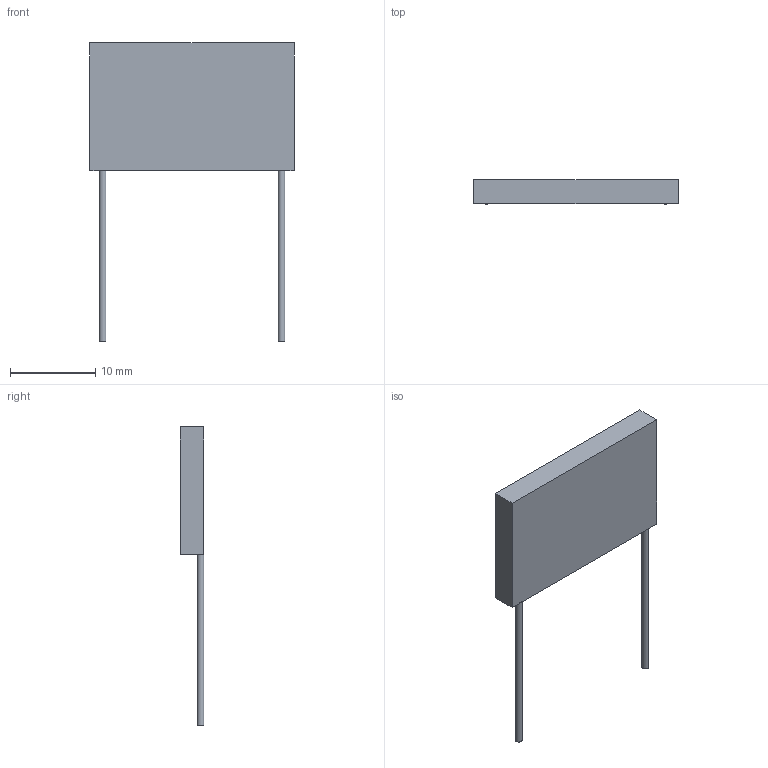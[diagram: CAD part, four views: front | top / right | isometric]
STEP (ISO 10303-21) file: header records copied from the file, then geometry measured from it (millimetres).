
FILE_DESCRIPTION(('STEP AP203'), '1');
FILE_NAME('R1-35-2-3', '', ('UNSPECIFIED'), ('UNSPECIFIED'), 'ASCON STEP Converter 1.6', 'ASCON Math Kernel', '');
FILE_SCHEMA(('CONFIG_CONTROL_DESIGN'));
Length unit declared in the file: millimetre
Bounding box: 24 x 2.8 x 35 mm (x, y, z)
Volume: 1028.1 mm3; surface area: 1038.9 mm2
Topology: 1 solids, 1 shells, 10 faces, 22 edges, 14 vertices
Faces by surface type: plane 8, cylinder 2
Full cylindrical faces by diameter (mm): 0.8 x2
Entity records: 390 total; most frequent: DIRECTION 48, CARTESIAN_POINT 45, ORIENTED_EDGE 40, EDGE_CURVE 20, AXIS2_PLACEMENT_3D 17, VERTEX_POINT 14, LINE 14, VECTOR 14
